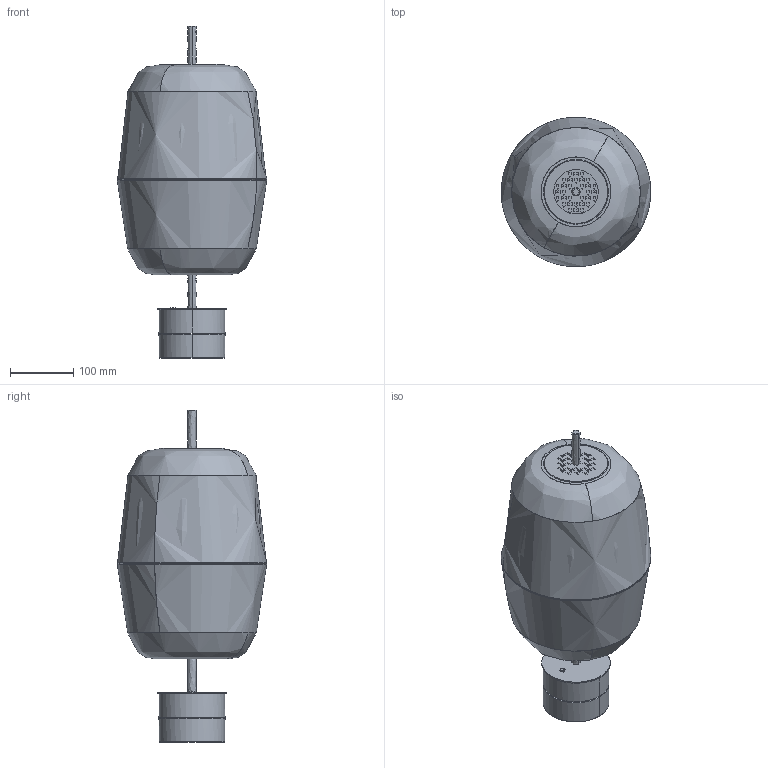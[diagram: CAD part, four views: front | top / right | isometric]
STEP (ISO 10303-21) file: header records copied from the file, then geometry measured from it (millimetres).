
FILE_DESCRIPTION(/* description */ (''),/* implementation_level */ '2;1');
FILE_NAME(/* name */ 'C181__.033',/* time_stamp */ '2025-05-16T10:41:17+02:00',/* author */ (''),/* organization */ (''),/* preprocessor_version */ 'ST-DEVELOPER v16.5',/* originating_system */ '',/* authorisation */ '');
FILE_SCHEMA (('AUTOMOTIVE_DESIGN'));
Length unit declared in the file: millimetre
Products named in the file (22): Document; 3500.0033000.00 (schermo ovale VETRO sp 7 con decoro molato)_3512.003
3033.00; Blocco 57; 3200.0888000.00 (tubo tondo ACC Ø 13mm sp 2)_3207.0888035.00; Blocco 51; 3300.0538000.00 (barra tonda OTTONE Ø 13mm H 60mm con filetto M4)
_3307.0538000.00; Blocco 56; 3200.0889000.00 (piattello di chiusura con uscita cavo ACC Ø 64mm
 sp 3)_3205.0889000.00; Blocco 62; 3100.0037001.00 (schermo anello PMMA D est. 100,4mm D int. 57,3mm sp 
3)_3105.0037001.99; Blocco 65; 3300.0116000.00 (testa cilindrica ALL D 101mm H 10mm)_3306.0116004.00; Blocco 59; 3200.00881000.00 (piattello chiusura ACC Ø 102mm sp 2)_3201.08810
01.00; Blocco 52; Blocco 69; 3200.0886000.00 (peso circolare ''E'' ACC Ø 108mm sp 3)_3201.
0887000.00; Blocco 58; 3300.0115000.00 (base cilindrica ALL D 104mm H 37mm)_3306.0115012.00; Blocco 64; 5205.0004007.00 (nipplo D 10mm sp 2 gambo H 7mm M8x1 PC trasparente S
teab 5475-3-07-011)_5205.0004007.00; Blocco 60
Assembly tree (21 placements, depth 3):
  Document
    3500.0033000.00 (schermo ovale VETRO sp 7 con decoro molato)_3512.003
3033.00
      Blocco 57
    3200.0888000.00 (tubo tondo ACC Ø 13mm sp 2)_3207.0888035.00
      Blocco 51
    3300.0538000.00 (barra tonda OTTONE Ø 13mm H 60mm con filetto M4)
_3307.0538000.00
      Blocco 56
    3200.0889000.00 (piattello di chiusura con uscita cavo ACC Ø 64mm
 sp 3)_3205.0889000.00
      Blocco 62
    3100.0037001.00 (schermo anello PMMA D est. 100,4mm D int. 57,3mm sp 
3)_3105.0037001.99
      Blocco 65
    3300.0116000.00 (testa cilindrica ALL D 101mm H 10mm)_3306.0116004.00
      Blocco 59
    3200.00881000.00 (piattello chiusura ACC Ø 102mm sp 2)_3201.08810
01.00
      Blocco 52
    Blocco 69
    3200.0886000.00 (peso circolare ''E'' ACC Ø 108mm sp 3)_3201.
0887000.00
      Blocco 58
    3300.0115000.00 (base cilindrica ALL D 104mm H 37mm)_3306.0115012.00
      Blocco 64
    5205.0004007.00 (nipplo D 10mm sp 2 gambo H 7mm M8x1 PC trasparente S
teab 5475-3-07-011)_5205.0004007.00
      Blocco 60
Bounding box: 235.57 x 235.32 x 522.9 mm (x, y, z)
Surface area: 671467 mm2
Topology: 1 solids, 768 shells, 773 faces, 4026 edges, 3976 vertices
Faces by surface type: bspline 689, plane 84
Entity records: 63486 total; most frequent: CARTESIAN_POINT 44136, ORIENTED_EDGE 3988, EDGE_CURVE 3980, VERTEX_POINT 3976, B_SPLINE_CURVE_WITH_KNOTS 1692, EDGE_LOOP 898, ADVANCED_FACE 773, FACE_OUTER_BOUND 773
